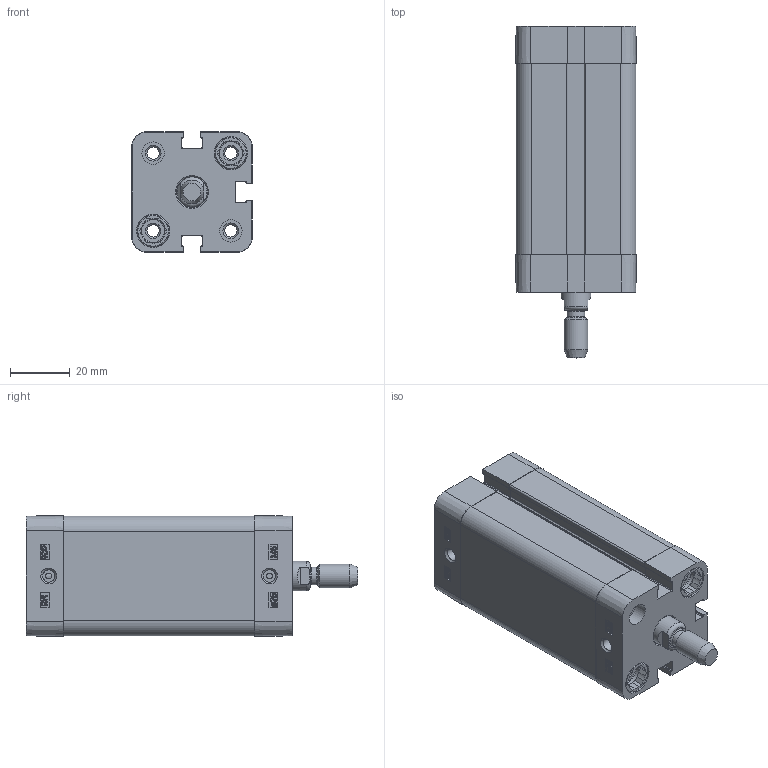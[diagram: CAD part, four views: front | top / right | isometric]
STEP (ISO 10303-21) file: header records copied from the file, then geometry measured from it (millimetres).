
FILE_DESCRIPTION((''),'2;1');
FILE_NAME('T:\Archivio Inventor\- CATALOGHI 2012\SERIE P - NUOVA\PDM\PDM025\PDM025.---.GS.M\PDM025.050.GS.M.stp','2013-01-31T08:07:02',('Administrator'),(''),'Autodesk Inventor 2012','Autodesk Inventor 2012','');
FILE_SCHEMA(('CONFIG_CONTROL_DESIGN'));
Length unit declared in the file: millimetre
Products named in the file (1): PDM025.050.GS.M
Bounding box: 40.3 x 111 x 40.3 mm (x, y, z)
Volume: 78328.1 mm3; surface area: 39574.9 mm2
Topology: 1 solids, 3 shells, 596 faces, 1552 edges, 1017 vertices
Faces by surface type: plane 312, cylinder 130, bspline 92, cone 50, torus 12
Full cylindrical faces by diameter (mm): 2 x2, 4.134 x10, 5.8 x1, 7.5 x4, 7.55 x2, 8 x9, 9 x1, 10 x1, 10.5 x1, 10.8 x4, 11.1 x4, 25 x1, 27.3 x1, 27.5 x1
Entity records: 18782 total; most frequent: CARTESIAN_POINT 4306, ORIENTED_EDGE 2888, DIRECTION 2606, EDGE_CURVE 1444, VERTEX_POINT 1002, VECTOR 898, LINE 898, AXIS2_PLACEMENT_3D 854
